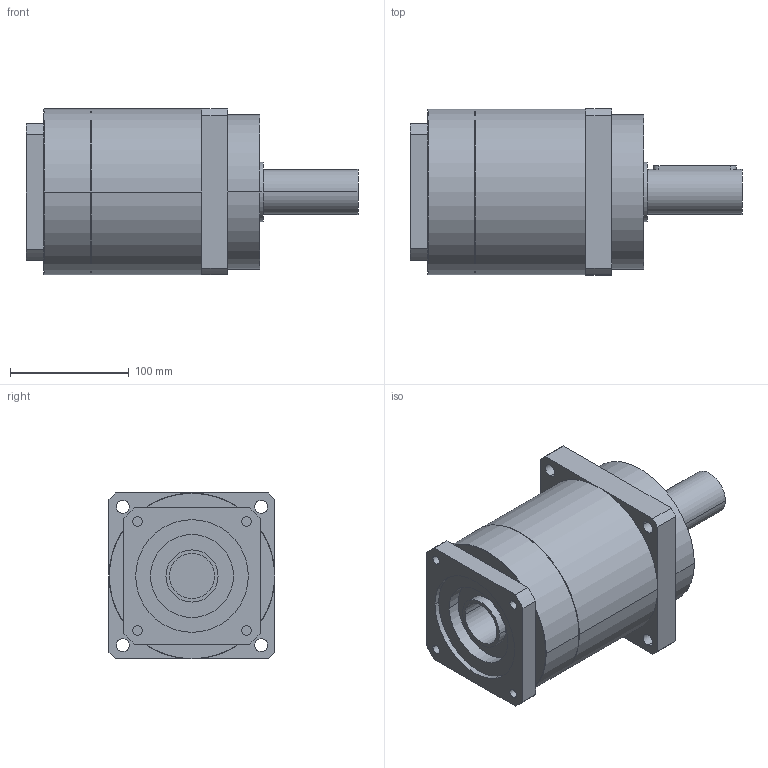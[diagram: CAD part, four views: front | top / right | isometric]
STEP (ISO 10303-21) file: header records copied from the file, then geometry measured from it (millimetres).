
FILE_DESCRIPTION(('CoCreate Modeling STEP Export'),'2;1');
FILE_NAME('GPR150_ig-3-4-5-7_38_B5_38_P10.stp','2014-08-19T16:43:32',(''),(''),'CoCreate Modeling STEP processor for AP214 (Solid Model)','CoCreate Modeling 16.00C 25-Feb-2009 (C) Parametric Technology GmbH','');
FILE_SCHEMA(('AUTOMOTIVE_DESIGN { 1 0 10303 214 1 1 1 1 }'));
Length unit declared in the file: millimetre
Products named in the file (2): GPR150_ig-3-4-5-7_38_B5_38_P10
Assembly tree (1 placements, depth 2):
  GPR150_ig-3-4-5-7_38_B5_38_P10
    GPR150_ig-3-4-5-7_38_B5_38_P10
Bounding box: 280 x 140 x 140 mm (x, y, z)
Volume: 2970225.3 mm3; surface area: 156809.4 mm2
Topology: 1 solids, 1 shells, 89 faces, 225 edges, 149 vertices
Faces by surface type: cylinder 46, plane 37, cone 6
Entity records: 2343 total; most frequent: ORIENTED_EDGE 446, CARTESIAN_POINT 429, DIRECTION 326, EDGE_CURVE 223, VERTEX_POINT 149, AXIS2_PLACEMENT_3D 118, EDGE_LOOP 110, VECTOR 90
